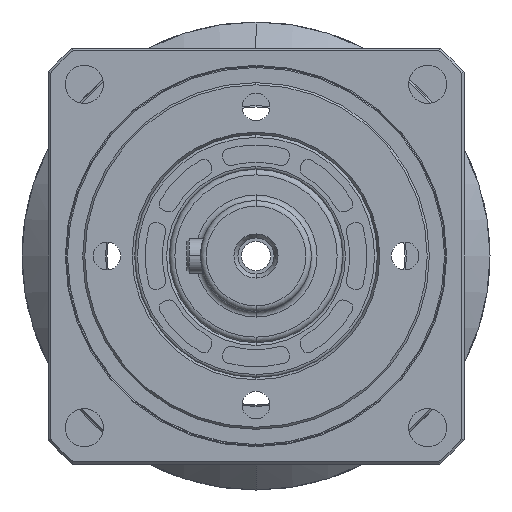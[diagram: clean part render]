
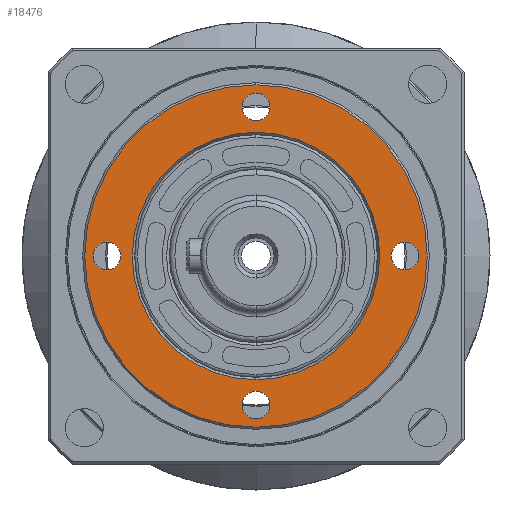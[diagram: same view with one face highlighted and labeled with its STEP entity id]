
A CAD part, left-side view. The second image highlights one B-rep face of the part: STEP entity #18476.
In plain terms, the highlighted planar face has unit normal (-1, 0, 0).
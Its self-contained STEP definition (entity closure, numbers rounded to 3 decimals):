
#667 = AXIS2_PLACEMENT_3D ( 'NONE', #15618, #15609, #15563 ) ;
#671 = AXIS2_PLACEMENT_3D ( 'NONE', #7835, #7865, #7916 ) ;
#707 = AXIS2_PLACEMENT_3D ( 'NONE', #9490, #9388, #9387 ) ;
#708 = AXIS2_PLACEMENT_3D ( 'NONE', #9450, #9456, #9461 ) ;
#727 = AXIS2_PLACEMENT_3D ( 'NONE', #9560, #9572, #9569 ) ;
#768 = AXIS2_PLACEMENT_3D ( 'NONE', #1971, #1970, #1969 ) ;
#776 = AXIS2_PLACEMENT_3D ( 'NONE', #2622, #1926, #2626 ) ;
#778 = AXIS2_PLACEMENT_3D ( 'NONE', #1922, #2621, #2199 ) ;
#779 = AXIS2_PLACEMENT_3D ( 'NONE', #2197, #2184, #2178 ) ;
#781 = AXIS2_PLACEMENT_3D ( 'NONE', #2200, #2198, #2196 ) ;
#833 = AXIS2_PLACEMENT_3D ( 'NONE', #2294, #2102, #2103 ) ;
#834 = AXIS2_PLACEMENT_3D ( 'NONE', #2105, #2104, #2337 ) ;
#1922 = CARTESIAN_POINT ( 'NONE',  ( 93., 0., 21.5 ) ) ;
#1926 = DIRECTION ( 'NONE',  ( -1., 0., 0. ) ) ;
#1969 = DIRECTION ( 'NONE',  ( 0., 0., 1. ) ) ;
#1970 = DIRECTION ( 'NONE',  ( -1., 0., 0. ) ) ;
#1971 = CARTESIAN_POINT ( 'NONE',  ( 93., 0., 0. ) ) ;
#2102 = DIRECTION ( 'NONE',  ( -1., 0., 0. ) ) ;
#2103 = DIRECTION ( 'NONE',  ( 0., 0., 1. ) ) ;
#2104 = DIRECTION ( 'NONE',  ( -1., 0., 0. ) ) ;
#2105 = CARTESIAN_POINT ( 'NONE',  ( 93., 0., 0. ) ) ;
#2178 = DIRECTION ( 'NONE',  ( 0., 0., 1. ) ) ;
#2184 = DIRECTION ( 'NONE',  ( -1., 0., 0. ) ) ;
#2196 = DIRECTION ( 'NONE',  ( 0., 0., 1. ) ) ;
#2197 = CARTESIAN_POINT ( 'NONE',  ( 93., 0., 0. ) ) ;
#2198 = DIRECTION ( 'NONE',  ( -1., 0., 0. ) ) ;
#2199 = DIRECTION ( 'NONE',  ( 0., 0., 1. ) ) ;
#2200 = CARTESIAN_POINT ( 'NONE',  ( 93., 0., -21.5 ) ) ;
#2294 = CARTESIAN_POINT ( 'NONE',  ( 93., 21.5, 0. ) ) ;
#2337 = DIRECTION ( 'NONE',  ( 0., 0., -1. ) ) ;
#2621 = DIRECTION ( 'NONE',  ( -1., 0., 0. ) ) ;
#2622 = CARTESIAN_POINT ( 'NONE',  ( 93., -21.5, 0. ) ) ;
#2626 = DIRECTION ( 'NONE',  ( 0., 0., 1. ) ) ;
#2887 = EDGE_LOOP ( 'NONE', ( #6370, #6369 ) ) ;
#2888 = EDGE_LOOP ( 'NONE', ( #6304, #6305 ) ) ;
#2890 = EDGE_LOOP ( 'NONE', ( #6306, #6307 ) ) ;
#2891 = EDGE_LOOP ( 'NONE', ( #6309, #6308 ) ) ;
#2892 = EDGE_LOOP ( 'NONE', ( #6368, #6367 ) ) ;
#3142 = EDGE_LOOP ( 'NONE', ( #6302, #6303 ) ) ;
#6302 = ORIENTED_EDGE ( 'NONE', *, *, #10363, .F. ) ;
#6303 = ORIENTED_EDGE ( 'NONE', *, *, #8960, .F. ) ;
#6304 = ORIENTED_EDGE ( 'NONE', *, *, #10266, .F. ) ;
#6305 = ORIENTED_EDGE ( 'NONE', *, *, #9115, .F. ) ;
#6306 = ORIENTED_EDGE ( 'NONE', *, *, #10264, .F. ) ;
#6307 = ORIENTED_EDGE ( 'NONE', *, *, #9060, .F. ) ;
#6308 = ORIENTED_EDGE ( 'NONE', *, *, #9058, .T. ) ;
#6309 = ORIENTED_EDGE ( 'NONE', *, *, #10364, .T. ) ;
#6367 = ORIENTED_EDGE ( 'NONE', *, *, #10247, .F. ) ;
#6368 = ORIENTED_EDGE ( 'NONE', *, *, #10267, .F. ) ;
#6369 = ORIENTED_EDGE ( 'NONE', *, *, #8953, .F. ) ;
#6370 = ORIENTED_EDGE ( 'NONE', *, *, #10269, .F. ) ;
#7835 = CARTESIAN_POINT ( 'NONE',  ( 93., 21.5, 0. ) ) ;
#7865 = DIRECTION ( 'NONE',  ( -1., 0., 0. ) ) ;
#7916 = DIRECTION ( 'NONE',  ( 0., 0., 1. ) ) ;
#8634 = FACE_BOUND ( 'NONE', #3142, .T. ) ;
#8637 = FACE_BOUND ( 'NONE', #2887, .T. ) ;
#8638 = FACE_OUTER_BOUND ( 'NONE', #2891, .T. ) ;
#8639 = FACE_BOUND ( 'NONE', #2890, .T. ) ;
#8640 = FACE_BOUND ( 'NONE', #2888, .T. ) ;
#8644 = FACE_BOUND ( 'NONE', #2892, .T. ) ;
#8953 = EDGE_CURVE ( 'NONE', #15949, #15345, #10604, .T. ) ;
#8960 = EDGE_CURVE ( 'NONE', #16013, #15560, #10597, .T. ) ;
#9058 = EDGE_CURVE ( 'NONE', #15985, #15321, #10799, .T. ) ;
#9060 = EDGE_CURVE ( 'NONE', #15989, #15873, #10801, .T. ) ;
#9115 = EDGE_CURVE ( 'NONE', #15371, #15921, #10917, .T. ) ;
#9387 = DIRECTION ( 'NONE',  ( 0., 0., -1. ) ) ;
#9388 = DIRECTION ( 'NONE',  ( -1., 0., 0. ) ) ;
#9450 = CARTESIAN_POINT ( 'NONE',  ( 93., -21.5, 0. ) ) ;
#9456 = DIRECTION ( 'NONE',  ( -1., 0., 0. ) ) ;
#9461 = DIRECTION ( 'NONE',  ( 0., 0., 1. ) ) ;
#9490 = CARTESIAN_POINT ( 'NONE',  ( 93., 0., 0. ) ) ;
#9560 = CARTESIAN_POINT ( 'NONE',  ( 93., 0., 21.5 ) ) ;
#9569 = DIRECTION ( 'NONE',  ( 0., 0., 1. ) ) ;
#9572 = DIRECTION ( 'NONE',  ( -1., 0., 0. ) ) ;
#10247 = EDGE_CURVE ( 'NONE', #15545, #15373, #11265, .T. ) ;
#10264 = EDGE_CURVE ( 'NONE', #15873, #15989, #11369, .T. ) ;
#10266 = EDGE_CURVE ( 'NONE', #15921, #15371, #11237, .T. ) ;
#10267 = EDGE_CURVE ( 'NONE', #15373, #15545, #11238, .T. ) ;
#10269 = EDGE_CURVE ( 'NONE', #15345, #15949, #11236, .T. ) ;
#10363 = EDGE_CURVE ( 'NONE', #15560, #16013, #11084, .T. ) ;
#10364 = EDGE_CURVE ( 'NONE', #15321, #15985, #11081, .T. ) ;
#10597 = CIRCLE ( 'NONE', #671, 2. ) ;
#10604 = CIRCLE ( 'NONE', #667, 2. ) ;
#10799 = CIRCLE ( 'NONE', #707, 24.7 ) ;
#10801 = CIRCLE ( 'NONE', #708, 2. ) ;
#10917 = CIRCLE ( 'NONE', #727, 2. ) ;
#11081 = CIRCLE ( 'NONE', #834, 24.7 ) ;
#11084 = CIRCLE ( 'NONE', #833, 2. ) ;
#11236 = CIRCLE ( 'NONE', #781, 2. ) ;
#11237 = CIRCLE ( 'NONE', #778, 2. ) ;
#11238 = CIRCLE ( 'NONE', #779, 17.846 ) ;
#11265 = CIRCLE ( 'NONE', #768, 17.846 ) ;
#11369 = CIRCLE ( 'NONE', #776, 2. ) ;
#12282 = CARTESIAN_POINT ( 'NONE',  ( 93., 21.5, 2. ) ) ;
#12317 = CARTESIAN_POINT ( 'NONE',  ( 93., 0., -17.846 ) ) ;
#12518 = CARTESIAN_POINT ( 'NONE',  ( 93., 0., 19.5 ) ) ;
#12531 = CARTESIAN_POINT ( 'NONE',  ( 93., 0., 17.846 ) ) ;
#12566 = CARTESIAN_POINT ( 'NONE',  ( 93., 0., -19.5 ) ) ;
#12675 = CARTESIAN_POINT ( 'NONE',  ( 93., 0., -24.7 ) ) ;
#13125 = CARTESIAN_POINT ( 'NONE',  ( 93., 21.5, -2. ) ) ;
#13175 = CARTESIAN_POINT ( 'NONE',  ( 93., -21.5, -2. ) ) ;
#13204 = CARTESIAN_POINT ( 'NONE',  ( 93., 0., 24.7 ) ) ;
#13308 = CARTESIAN_POINT ( 'NONE',  ( 93., 0., -23.5 ) ) ;
#13329 = CARTESIAN_POINT ( 'NONE',  ( 93., 0., 23.5 ) ) ;
#13425 = CARTESIAN_POINT ( 'NONE',  ( 93., -21.5, 2. ) ) ;
#14252 = AXIS2_PLACEMENT_3D ( 'NONE', #19674, #19606, #19699 ) ;
#15321 = VERTEX_POINT ( 'NONE', #12675 ) ;
#15345 = VERTEX_POINT ( 'NONE', #12566 ) ;
#15371 = VERTEX_POINT ( 'NONE', #12518 ) ;
#15373 = VERTEX_POINT ( 'NONE', #12531 ) ;
#15545 = VERTEX_POINT ( 'NONE', #12317 ) ;
#15560 = VERTEX_POINT ( 'NONE', #12282 ) ;
#15563 = DIRECTION ( 'NONE',  ( 0., 0., 1. ) ) ;
#15609 = DIRECTION ( 'NONE',  ( -1., 0., 0. ) ) ;
#15618 = CARTESIAN_POINT ( 'NONE',  ( 93., 0., -21.5 ) ) ;
#15873 = VERTEX_POINT ( 'NONE', #13425 ) ;
#15921 = VERTEX_POINT ( 'NONE', #13329 ) ;
#15949 = VERTEX_POINT ( 'NONE', #13308 ) ;
#15985 = VERTEX_POINT ( 'NONE', #13204 ) ;
#15989 = VERTEX_POINT ( 'NONE', #13175 ) ;
#16013 = VERTEX_POINT ( 'NONE', #13125 ) ;
#18476 = ADVANCED_FACE ( 'NONE', ( #8634, #8637, #8640, #8639, #8638, #8644 ), #19684, .F. ) ;
#19606 = DIRECTION ( 'NONE',  ( 1., 0., 0. ) ) ;
#19674 = CARTESIAN_POINT ( 'NONE',  ( 93., 25., 0. ) ) ;
#19684 = PLANE ( 'NONE',  #14252 ) ;
#19699 = DIRECTION ( 'NONE',  ( 0., 0., -1. ) ) ;
